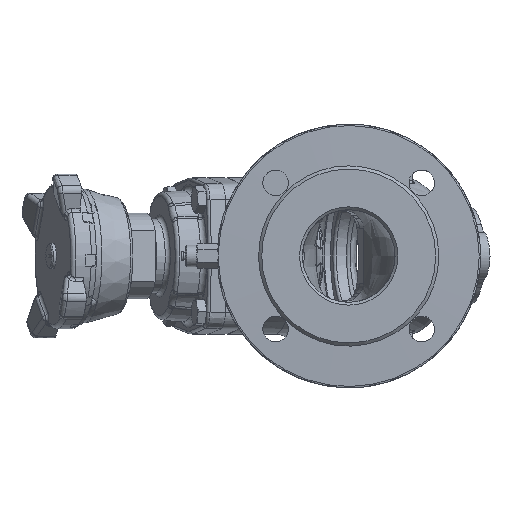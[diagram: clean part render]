
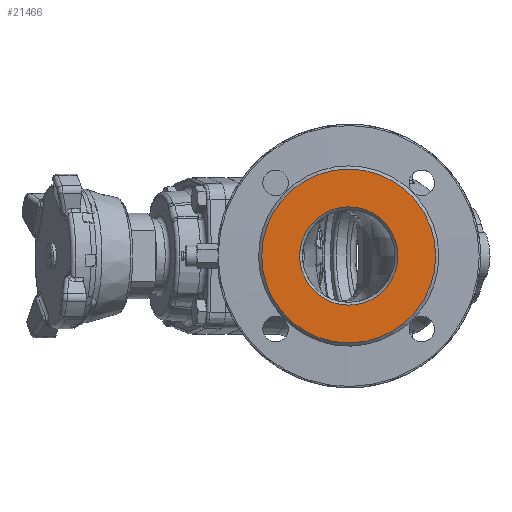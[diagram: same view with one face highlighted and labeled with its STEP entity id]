
A CAD part, left-side view. The second image highlights one B-rep face of the part: STEP entity #21466.
In plain terms, the highlighted planar face has unit normal (-1, 0, 0).
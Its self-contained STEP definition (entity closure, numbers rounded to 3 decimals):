
#1678 = FACE_BOUND ( 'NONE', #21488, .T. ) ;
#1683 = FACE_OUTER_BOUND ( 'NONE', #21469, .T. ) ;
#1684 = PLANE ( 'NONE',  #1709 ) ;
#1706 = DIRECTION ( 'NONE',  ( 0., 0., 1. ) ) ;
#1707 = DIRECTION ( 'NONE',  ( -1., 0., 0. ) ) ;
#1708 = CARTESIAN_POINT ( 'NONE',  ( -137., -32.5, 0. ) ) ;
#1709 = AXIS2_PLACEMENT_3D ( 'NONE', #1708, #1707, #1706 ) ;
#1711 = AXIS2_PLACEMENT_3D ( 'NONE', #1723, #1722, #1721 ) ;
#1721 = DIRECTION ( 'NONE',  ( 0., 0., 1. ) ) ;
#1722 = DIRECTION ( 'NONE',  ( 1., 0., 0. ) ) ;
#1723 = CARTESIAN_POINT ( 'NONE',  ( -137., 0., 0. ) ) ;
#1724 = CIRCLE ( 'NONE', #1711, 34.5 ) ;
#1924 = CARTESIAN_POINT ( 'NONE',  ( -137., 0., 0. ) ) ;
#2007 = AXIS2_PLACEMENT_3D ( 'NONE', #1924, #2127, #2126 ) ;
#2068 = CIRCLE ( 'NONE', #2007, 61. ) ;
#2126 = DIRECTION ( 'NONE',  ( 0., 0., 1. ) ) ;
#2127 = DIRECTION ( 'NONE',  ( -1., 0., 0. ) ) ;
#21466 = ADVANCED_FACE ( 'NONE', ( #1678, #1683 ), #1684, .T. ) ;
#21467 = ORIENTED_EDGE ( 'NONE', *, *, #21471, .T. ) ;
#21469 = EDGE_LOOP ( 'NONE', ( #21524 ) ) ;
#21471 = EDGE_CURVE ( 'NONE', #53828, #53828, #1724, .T. ) ;
#21488 = EDGE_LOOP ( 'NONE', ( #21467 ) ) ;
#21524 = ORIENTED_EDGE ( 'NONE', *, *, #21563, .T. ) ;
#21563 = EDGE_CURVE ( 'NONE', #53818, #53818, #2068, .T. ) ;
#53815 = CARTESIAN_POINT ( 'NONE',  ( -137., 0., 61. ) ) ;
#53818 = VERTEX_POINT ( 'NONE', #53815 ) ;
#53825 = CARTESIAN_POINT ( 'NONE',  ( -137., 0., 34.5 ) ) ;
#53828 = VERTEX_POINT ( 'NONE', #53825 ) ;
